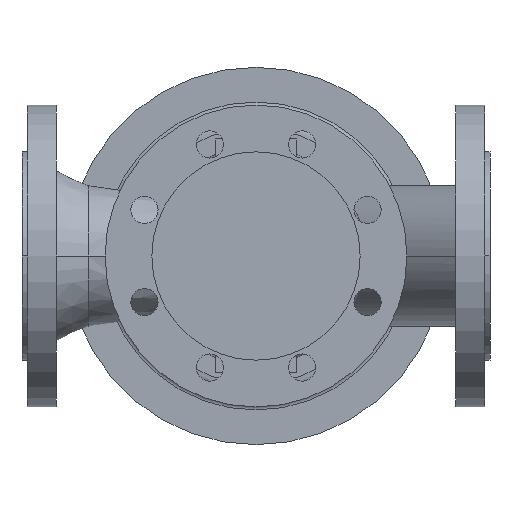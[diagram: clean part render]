
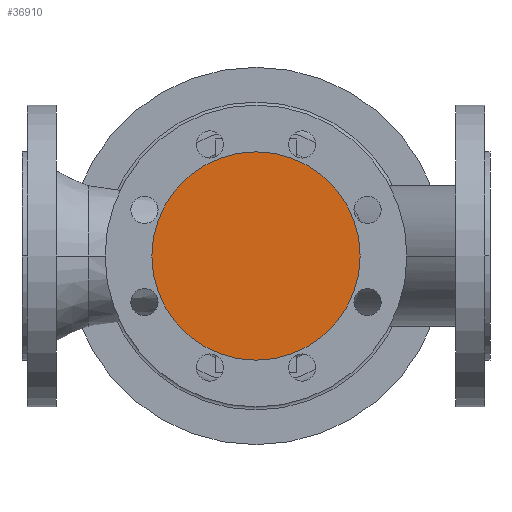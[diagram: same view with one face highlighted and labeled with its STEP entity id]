
A CAD part, front view. The second image highlights one B-rep face of the part: STEP entity #36910.
In plain terms, the highlighted planar face has unit normal (0, -1, 0).
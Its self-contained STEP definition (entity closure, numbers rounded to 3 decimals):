
#3730=CARTESIAN_POINT('',(224.,-130.,0.));
#3740=VERTEX_POINT('',#3730);
#3900=CARTESIAN_POINT('',(86.,-130.,0.));
#3910=VERTEX_POINT('',#3900);
#3940=CARTESIAN_POINT('',(155.,-130.,0.));
#3950=DIRECTION('',(0.,1.,0.));
#3960=DIRECTION('',(1.,0.,0.));
#3970=AXIS2_PLACEMENT_3D('',#3940,#3950,#3960);
#3980=CIRCLE('',#3970,69.);
#3990=EDGE_CURVE('',#3740,#3910,#3980,.T.);
#36810=CARTESIAN_POINT('',(189.5,-130.,0.));
#36820=DIRECTION('',(0.,-1.,0.));
#36830=DIRECTION('',(-1.,0.,0.));
#36840=AXIS2_PLACEMENT_3D('',#36810,#36820,#36830);
#36850=PLANE('',#36840);
#36860=EDGE_CURVE('',#3910,#3740,#3980,.T.);
#36870=ORIENTED_EDGE('',*,*,#36860,.F.);
#36880=ORIENTED_EDGE('',*,*,#3990,.F.);
#36890=EDGE_LOOP('',(#36880,#36870));
#36900=FACE_OUTER_BOUND('',#36890,.T.);
#36910=ADVANCED_FACE('',(#36900),#36850,.T.);
